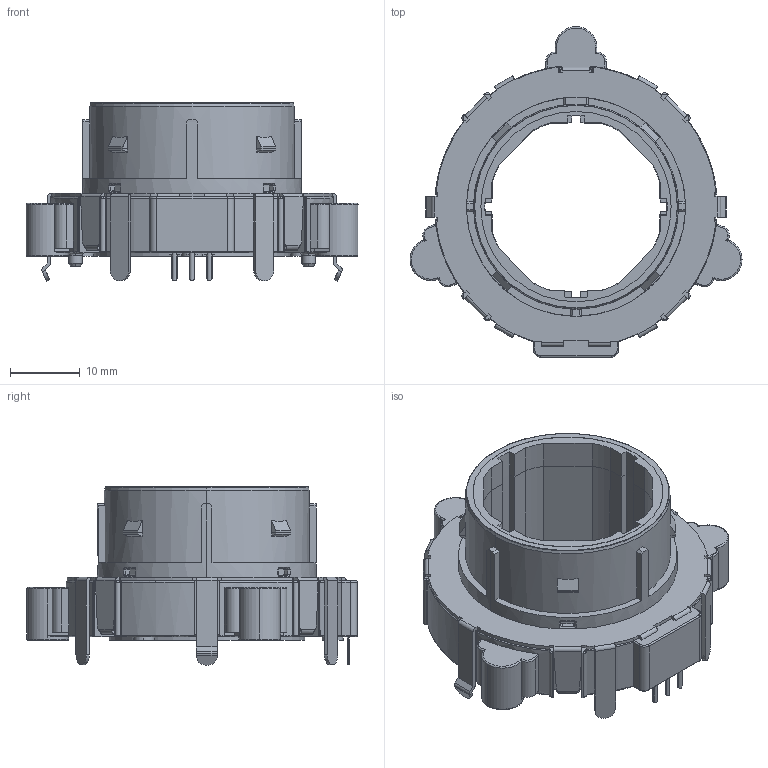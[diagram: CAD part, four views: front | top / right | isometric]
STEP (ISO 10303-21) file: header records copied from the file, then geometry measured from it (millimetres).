
FILE_DESCRIPTION (( 'STEP AP214' ), '1' );
FILE_NAME ('EC40A1520405.STEP', '2015-10-22T02:01:13', ( '' ), ( '' ), 'SwSTEP 2.0', 'SolidWorks 2014', '' );
FILE_SCHEMA (( 'AUTOMOTIVE_DESIGN' ));
Length unit declared in the file: millimetre
Products named in the file (1): EC40A1520405
Bounding box: 47.53 x 47.35 x 25.6 mm (x, y, z)
Volume: 10380.5 mm3; surface area: 7680.7 mm2
Topology: 1 solids, 4 shells, 946 faces, 2549 edges, 1626 vertices
Faces by surface type: plane 530, cylinder 269, bspline 111, cone 36
Entity records: 42728 total; most frequent: CARTESIAN_POINT 9449, ORIENTED_EDGE 5098, DIRECTION 4333, EDGE_CURVE 2549, LINE 1627, VECTOR 1627, VERTEX_POINT 1626, AXIS2_PLACEMENT_3D 1353
